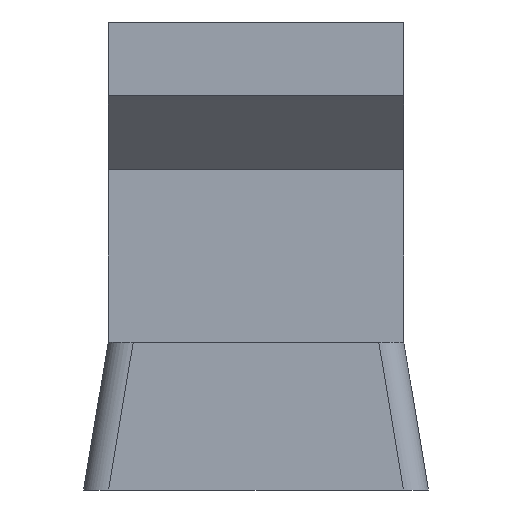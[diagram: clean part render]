
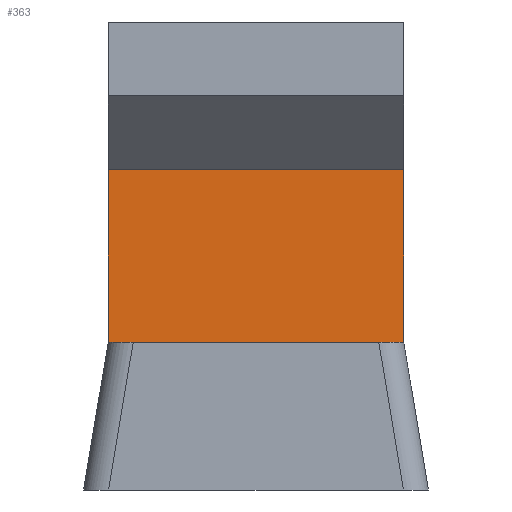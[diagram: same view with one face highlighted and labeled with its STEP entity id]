
A CAD part, front view. The second image highlights one B-rep face of the part: STEP entity #363.
In plain terms, the highlighted planar face has unit normal (0, -1, 0).
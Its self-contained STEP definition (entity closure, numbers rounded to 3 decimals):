
#25=PLANE('',#405);
#45=FACE_OUTER_BOUND('',#65,.T.);
#65=EDGE_LOOP('',(#311,#312,#313,#314));
#98=LINE('',#587,#140);
#106=LINE('',#600,#148);
#107=LINE('',#603,#149);
#108=LINE('',#604,#150);
#140=VECTOR('',#480,10.);
#148=VECTOR('',#492,10.);
#149=VECTOR('',#495,10.);
#150=VECTOR('',#496,10.);
#189=VERTEX_POINT('',#585);
#190=VERTEX_POINT('',#586);
#193=VERTEX_POINT('',#597);
#194=VERTEX_POINT('',#602);
#230=EDGE_CURVE('',#189,#190,#98,.T.);
#238=EDGE_CURVE('',#193,#190,#106,.T.);
#239=EDGE_CURVE('',#193,#194,#107,.T.);
#240=EDGE_CURVE('',#194,#189,#108,.T.);
#311=ORIENTED_EDGE('',*,*,#239,.F.);
#312=ORIENTED_EDGE('',*,*,#238,.T.);
#313=ORIENTED_EDGE('',*,*,#230,.F.);
#314=ORIENTED_EDGE('',*,*,#240,.F.);
#363=ADVANCED_FACE('',(#45),#25,.T.);
#405=AXIS2_PLACEMENT_3D('',#601,#493,#494);
#480=DIRECTION('',(1.,0.,0.));
#492=DIRECTION('',(0.,0.,1.));
#493=DIRECTION('center_axis',(0.,-1.,0.));
#494=DIRECTION('ref_axis',(1.,0.,0.));
#495=DIRECTION('',(-1.,0.,0.));
#496=DIRECTION('',(0.,0.,1.));
#585=CARTESIAN_POINT('',(-3.,-1.5,6.5));
#586=CARTESIAN_POINT('',(3.,-1.5,6.5));
#587=CARTESIAN_POINT('',(3.,-1.5,6.5));
#597=CARTESIAN_POINT('',(3.,-1.5,3.));
#600=CARTESIAN_POINT('',(3.,-1.5,3.));
#601=CARTESIAN_POINT('Origin',(-3.,-1.5,3.));
#602=CARTESIAN_POINT('',(-3.,-1.5,3.));
#603=CARTESIAN_POINT('',(-1.5,-1.5,3.));
#604=CARTESIAN_POINT('',(-3.,-1.5,3.));
